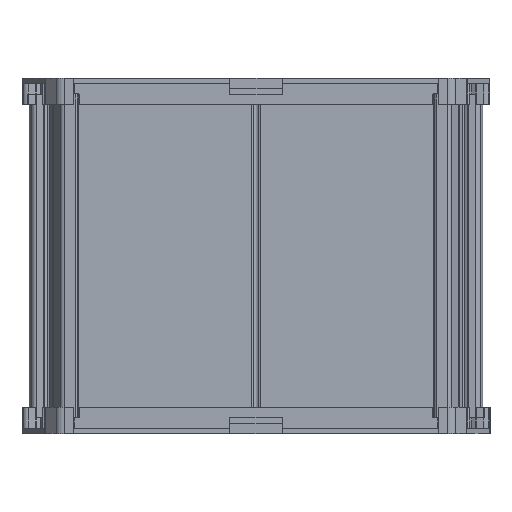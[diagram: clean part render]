
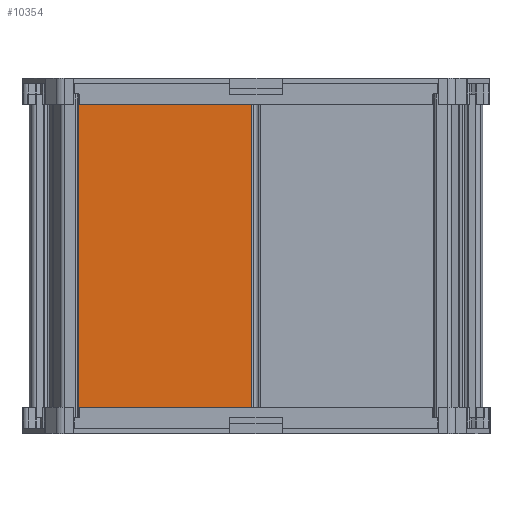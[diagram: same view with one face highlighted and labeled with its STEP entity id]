
A CAD part, top view. The second image highlights one B-rep face of the part: STEP entity #10354.
In plain terms, the highlighted planar face has unit normal (0, 0, 1) as drawn and (0, 1, 0) by its records, which use the part's own axes.
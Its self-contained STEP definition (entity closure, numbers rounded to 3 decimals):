
#788=FACE_OUTER_BOUND('',#1326,.T.);
#1326=EDGE_LOOP('',(#6923,#6924,#6925,#6926));
#1940=LINE('',#15342,#3068);
#1941=LINE('',#15344,#3069);
#1942=LINE('',#15346,#3070);
#1943=LINE('',#15347,#3071);
#3068=VECTOR('',#12219,1.);
#3069=VECTOR('',#12220,1.);
#3070=VECTOR('',#12221,1.);
#3071=VECTOR('',#12222,1.);
#4217=VERTEX_POINT('',#15340);
#4218=VERTEX_POINT('',#15341);
#4219=VERTEX_POINT('',#15343);
#4220=VERTEX_POINT('',#15345);
#5306=EDGE_CURVE('',#4217,#4218,#1940,.T.);
#5307=EDGE_CURVE('',#4218,#4219,#1941,.T.);
#5308=EDGE_CURVE('',#4220,#4219,#1942,.T.);
#5309=EDGE_CURVE('',#4217,#4220,#1943,.T.);
#6923=ORIENTED_EDGE('',*,*,#5306,.T.);
#6924=ORIENTED_EDGE('',*,*,#5307,.T.);
#6925=ORIENTED_EDGE('',*,*,#5308,.F.);
#6926=ORIENTED_EDGE('',*,*,#5309,.F.);
#9993=PLANE('',#11067);
#10354=ADVANCED_FACE('',(#788),#9993,.F.);
#11067=AXIS2_PLACEMENT_3D('',#15339,#12217,#12218);
#12217=DIRECTION('center_axis',(0.,-1.,0.));
#12218=DIRECTION('ref_axis',(-1.,0.,0.));
#12219=DIRECTION('',(-1.,0.,0.));
#12220=DIRECTION('',(0.,0.,1.));
#12221=DIRECTION('',(-1.,0.,0.));
#12222=DIRECTION('',(0.,0.,1.));
#15339=CARTESIAN_POINT('Origin',(-0.866,21.5,-10.));
#15340=CARTESIAN_POINT('',(-0.866,21.5,-9.25));
#15341=CARTESIAN_POINT('',(-36.444,21.5,-9.25));
#15342=CARTESIAN_POINT('',(0.,21.5,-9.25));
#15343=CARTESIAN_POINT('',(-36.444,21.5,52.75));
#15344=CARTESIAN_POINT('',(-36.444,21.5,0.));
#15345=CARTESIAN_POINT('',(-0.866,21.5,52.75));
#15346=CARTESIAN_POINT('',(0.,21.5,52.75));
#15347=CARTESIAN_POINT('',(-0.866,21.5,-10.));
